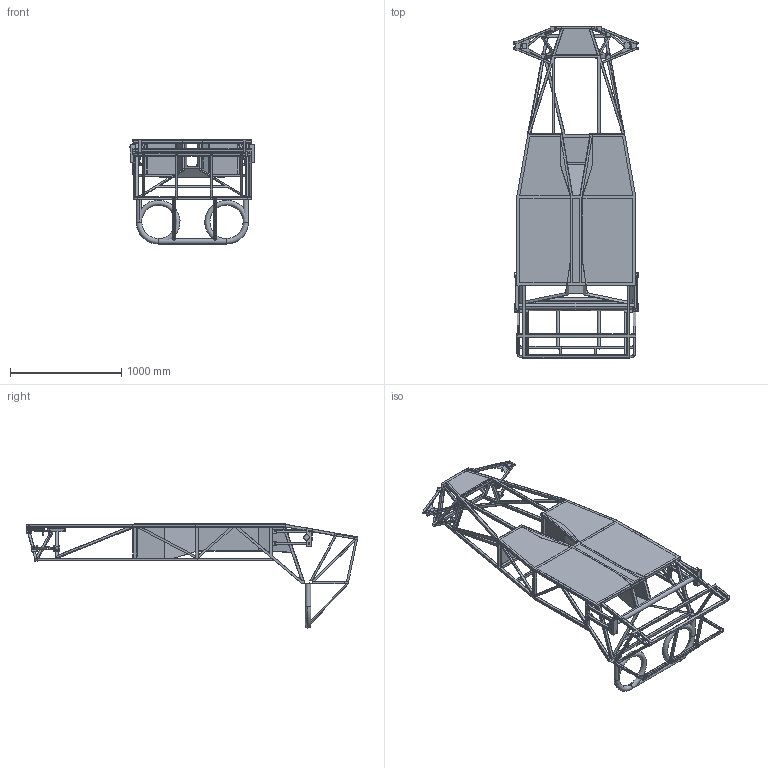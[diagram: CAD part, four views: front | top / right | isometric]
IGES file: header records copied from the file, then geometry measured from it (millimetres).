
Start section: Parasolid data in IGES format
Global section: file name: Complete Chassis 3d.igs; native system: Parasolid(11.1); preprocessor: Pariges 4.4; author: Administrator; organization: ProDESKTOP 6.0; date: 20040611.080548; units: millimetre
Bounding box: 1126.19 x 2988.26 x 936.4 mm (x, y, z)
Volume: 22428748 mm3; surface area: 14251320 mm2
Topology: 88 solids, 92 shells, 1390 faces, 3624 edges, 2394 vertices
Faces by surface type: plane 1090, cylinder 292, torus 8
